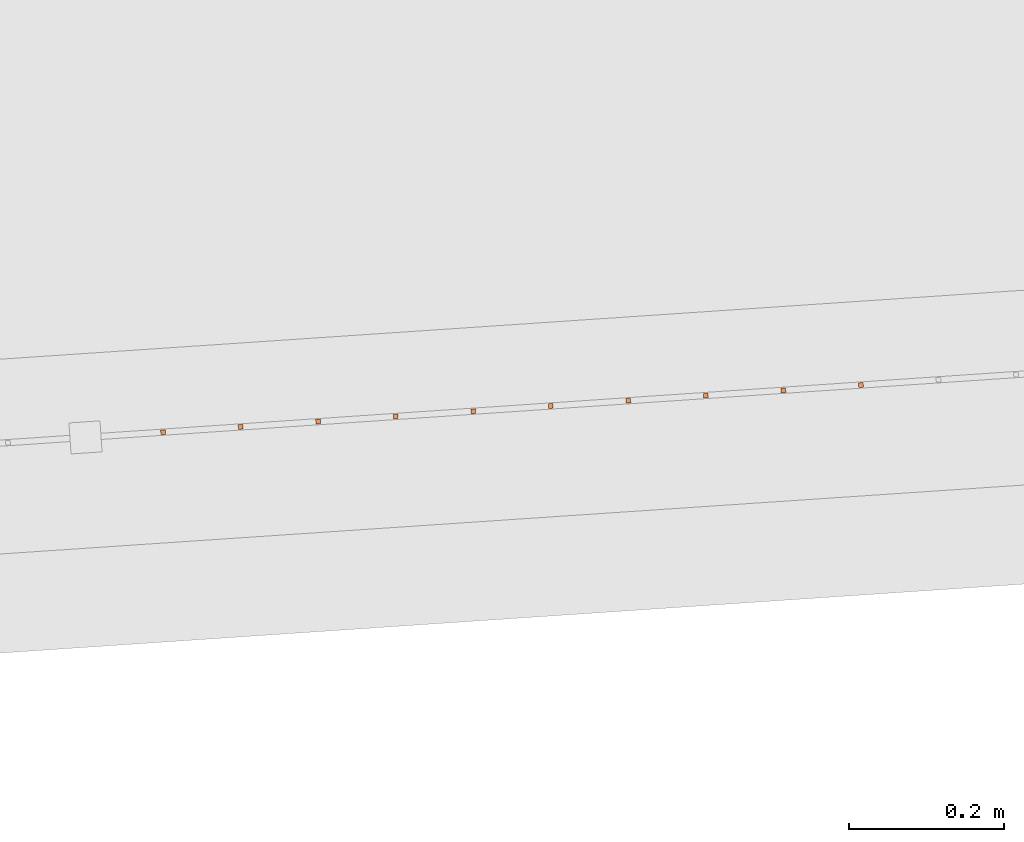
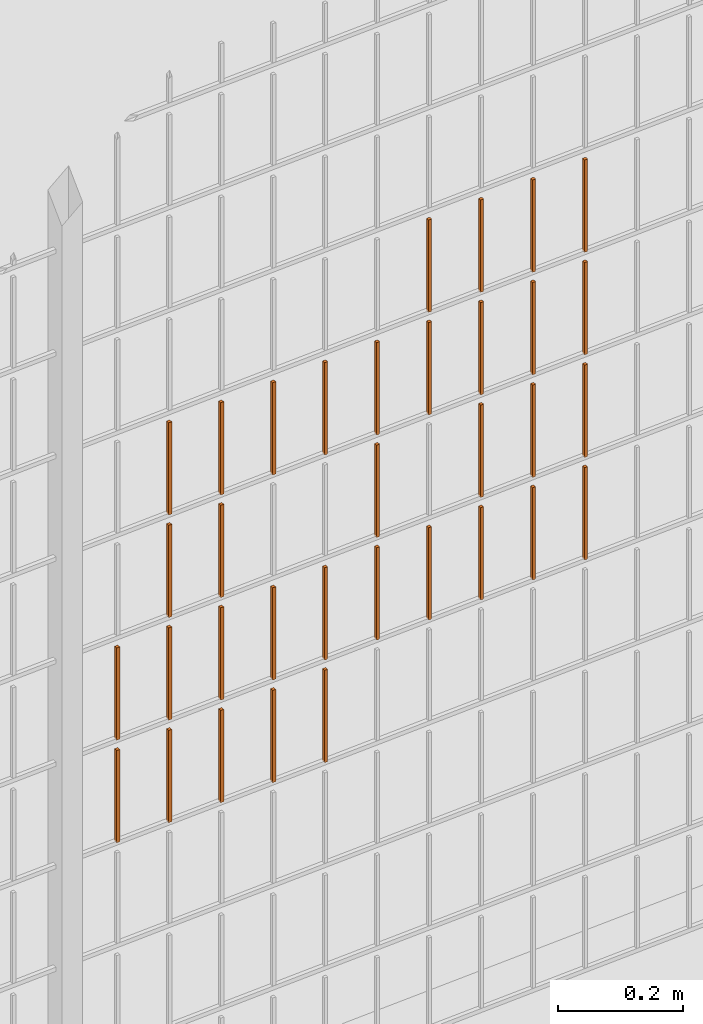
# One storey, part 293 of 1809: 34 proxies, 1 element without a shape of its own.
"""IFC2X3 building model written with IfcOpenShell, lengths in millimetres."""

from ifc_helpers import new_model, entity, si_unit, converted_unit, derived_unit, money_unit, direction, frame, origin_with_axes, place, context, subcontext, project, spatial, faceted_brep, source, transform, mapped, material, type_object, element, aggregate, save


model = new_model("IFC2X3")

# Units and contexts
model_context = context("Model", 3, precision=0.01, world=origin_with_axes(), true_north=direction((0.0, 1.0)))
body_context = subcontext(model_context, "Body", "Model", "MODEL_VIEW")
ifc_project = project(units=[si_unit("LENGTHUNIT", "METRE", prefix="MILLI"), si_unit("AREAUNIT", "SQUARE_METRE"), si_unit("VOLUMEUNIT", "CUBIC_METRE"), converted_unit("PLANEANGLEUNIT", "DEGREE", entity("IfcPlaneAngleMeasure", 0.0174532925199), si_unit("PLANEANGLEUNIT", "RADIAN"), dimensions=[0, 0, 0, 0, 0, 0, 0]), si_unit("SOLIDANGLEUNIT", "STERADIAN"), money_unit("EUR"), converted_unit("TIMEUNIT", "Year", entity("IfcTimeMeasure", 31556926.0), si_unit("TIMEUNIT", "SECOND"), dimensions=[0, 0, 1, 0, 0, 0, 0]), si_unit("MASSUNIT", "GRAM", prefix="KILO"), si_unit("THERMODYNAMICTEMPERATUREUNIT", "DEGREE_CELSIUS"), si_unit("LUMINOUSINTENSITYUNIT", "LUMEN"), si_unit("ENERGYUNIT", "JOULE", prefix="MEGA"), derived_unit("THERMALCONDUCTANCEUNIT", [(si_unit("POWERUNIT", "WATT"), 1), (si_unit("LENGTHUNIT", "METRE"), -1), (si_unit("THERMODYNAMICTEMPERATUREUNIT", "KELVIN"), -1)]), derived_unit("SPECIFICHEATCAPACITYUNIT", [(si_unit("ENERGYUNIT", "JOULE"), 1), (si_unit("MASSUNIT", "GRAM", prefix="KILO"), -1), (si_unit("THERMODYNAMICTEMPERATUREUNIT", "KELVIN"), -1)]), derived_unit("MASSDENSITYUNIT", [(si_unit("MASSUNIT", "GRAM", prefix="KILO"), 1), (si_unit("VOLUMEUNIT", "CUBIC_METRE"), -1)])], contexts=[model_context])

# Site, building, storey
site_placement = place(None, origin_with_axes())
site = spatial("IfcSite", under=ifc_project, at=site_placement, Name="Politse- ja Piirivalveameti ning Päästeameti ühishoone", CompositionType="ELEMENT")
building_placement = place(site_placement, origin_with_axes())
building = spatial("IfcBuilding", under=site, at=building_placement, Name="Politse- ja Piirivalveameti ning Päästeameti ühishoone", CompositionType="ELEMENT")
storey_placement = place(building_placement, origin_with_axes())
storey = spatial("IfcBuildingStorey", under=building, at=storey_placement, Name="Esimene korrus", CompositionType="ELEMENT", Elevation=0.0)

# Proxies
building_element_proxy_type_1 = type_object("IfcBuildingElementProxyType", Name="Railing Type", PredefinedType="NOTDEFINED")
proxy_1_placement = place(storey_placement, frame((89252.001212, -29183.4766571, 203.661247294), z_axis=(0.0, 0.0, 1.0), x_axis=(1.0, 0.0, 0.0)))
proxy_1 = element("IfcBuildingElementProxy", 1, at=proxy_1_placement, inside=storey, type_object=building_element_proxy_type_1, Name="PIIRDEAED")
ifc_material = material(Name="ET-03_Raud")
building_element_proxy_type_2 = type_object("IfcBuildingElementProxyType", Name="IfcBuildingElementProxy", PredefinedType="NOTDEFINED")
shared_shape_1 = source(origin_with_axes(), body_context, "Body", "Brep", [
    faceted_brep([(3.0, 3.0, -0.000752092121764), (-3.0, 3.0, -0.000752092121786), (-3.0, 3.0, 179.99926046), (3.0, 3.0, 179.99926046), (3.0, -3.0, 0.000752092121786), (-3.0, -3.0, 0.000752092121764), (-3.0, -3.0, 180.000764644), (3.0, -3.0, 180.000764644)], [[[0, 1, 2, 3]], [[0, 4, 5, 1]], [[1, 5, 6, 2]], [[3, 2, 6, 7]], [[4, 0, 3, 7]], [[5, 4, 7, 6]]]),
])
proxy_2_placement = place(proxy_1_placement, frame((-46420.910951, -20433.3321101, 1415.57026702), z_axis=(0.0, 0.0, 1.0), x_axis=(1.0, 0.0, 0.0)))
proxy_2 = element("IfcBuildingElementProxy", 2, at=proxy_2_placement, type_object=building_element_proxy_type_2, material=ifc_material, Name="BALUSTER - 001", context=body_context, shape_type="MappedRepresentation", body=[
    mapped(shared_shape_1, transform((0.0, 0.0, 0.0), x_axis=(-0.0673926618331, 0.997726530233, 0.0), y_axis=(-0.997726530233, -0.0673926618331, 0.0), z_axis=(0.0, 0.0, 1.0))),
])
shared_shape_2 = source(origin_with_axes(), body_context, "Body", "Brep", [
    faceted_brep([(3.0, 3.0, -0.000752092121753), (-3.0, 3.0, -0.000752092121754), (-3.0, 3.0, 179.99926046), (3.0, 3.0, 179.99926046), (3.0, -3.0, 0.000752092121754), (-3.0, -3.0, 0.000752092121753), (-3.0, -3.0, 180.000764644), (3.0, -3.0, 180.000764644)], [[[0, 1, 2, 3]], [[0, 4, 5, 1]], [[1, 5, 6, 2]], [[3, 2, 6, 7]], [[4, 0, 3, 7]], [[5, 4, 7, 6]]]),
])
proxy_3_placement = place(proxy_1_placement, frame((-46720.2289101, -20453.5499087, 615.495057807), z_axis=(0.0, 0.0, 1.0), x_axis=(1.0, 0.0, 0.0)))
proxy_3 = element("IfcBuildingElementProxy", 3, at=proxy_3_placement, type_object=building_element_proxy_type_2, material=ifc_material, Name="BALUSTER - 001", context=body_context, shape_type="MappedRepresentation", body=[
    mapped(shared_shape_2, transform((0.0, 0.0, 0.0), x_axis=(-0.0673926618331, 0.997726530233, 0.0), y_axis=(-0.997726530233, -0.0673926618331, 0.0), z_axis=(0.0, 0.0, 1.0))),
])
shared_shape_3 = source(origin_with_axes(), body_context, "Body", "Brep", [
    faceted_brep([(3.0, 3.0, -0.000752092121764), (-3.0, 3.0, -0.000752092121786), (-3.0, 3.0, 179.99926046), (3.0, 3.0, 179.99926046), (3.0, -3.0, 0.000752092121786), (-3.0, -3.0, 0.000752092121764), (-3.0, -3.0, 180.000764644), (3.0, -3.0, 180.000764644)], [[[0, 1, 2, 3]], [[0, 4, 5, 1]], [[1, 5, 6, 2]], [[3, 2, 6, 7]], [[4, 0, 3, 7]], [[5, 4, 7, 6]]]),
])
proxy_4_placement = place(proxy_1_placement, frame((-46820.0015631, -20460.2891749, 615.46998807), z_axis=(0.0, 0.0, 1.0), x_axis=(1.0, 0.0, 0.0)))
proxy_4 = element("IfcBuildingElementProxy", 4, at=proxy_4_placement, type_object=building_element_proxy_type_2, material=ifc_material, Name="BALUSTER - 001", context=body_context, shape_type="MappedRepresentation", body=[
    mapped(shared_shape_3, transform((0.0, 0.0, 0.0), x_axis=(-0.0673926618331, 0.997726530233, 0.0), y_axis=(-0.997726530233, -0.0673926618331, 0.0), z_axis=(0.0, 0.0, 1.0))),
])
proxy_5_placement = place(proxy_1_placement, frame((-46820.0015631, -20460.2891749, 815.46998807), z_axis=(0.0, 0.0, 1.0), x_axis=(1.0, 0.0, 0.0)))
proxy_5 = element("IfcBuildingElementProxy", 5, at=proxy_5_placement, type_object=building_element_proxy_type_2, material=ifc_material, Name="BALUSTER - 001", context=body_context, shape_type="MappedRepresentation", body=[
    mapped(shared_shape_3, transform((0.0, 0.0, 0.0), x_axis=(-0.0673926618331, 0.997726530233, 0.0), y_axis=(-0.997726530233, -0.0673926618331, 0.0), z_axis=(0.0, 0.0, 1.0))),
])
shared_shape_4 = source(origin_with_axes(), body_context, "Body", "Brep", [
    faceted_brep([(3.0, 3.0, -0.000752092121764), (-3.0, 3.0, -0.000752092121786), (-3.0, 3.0, 179.99926046), (3.0, 3.0, 179.99926046), (3.0, -3.0, 0.000752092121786), (-3.0, -3.0, 0.000752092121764), (-3.0, -3.0, 180.000764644), (3.0, -3.0, 180.000764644)], [[[0, 1, 2, 3]], [[0, 4, 5, 1]], [[1, 5, 6, 2]], [[3, 2, 6, 7]], [[4, 0, 3, 7]], [[5, 4, 7, 6]]]),
])
proxy_6_placement = place(proxy_1_placement, frame((-46420.910951, -20433.3321101, 815.570267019), z_axis=(0.0, 0.0, 1.0), x_axis=(1.0, 0.0, 0.0)))
proxy_6 = element("IfcBuildingElementProxy", 6, at=proxy_6_placement, type_object=building_element_proxy_type_2, material=ifc_material, Name="BALUSTER - 001", context=body_context, shape_type="MappedRepresentation", body=[
    mapped(shared_shape_4, transform((0.0, 0.0, 0.0), x_axis=(-0.0673926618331, 0.997726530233, 0.0), y_axis=(-0.997726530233, -0.0673926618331, 0.0), z_axis=(0.0, 0.0, 1.0))),
])
proxy_7_placement = place(proxy_1_placement, frame((-46520.683604, -20440.0713763, 815.545197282), z_axis=(0.0, 0.0, 1.0), x_axis=(1.0, 0.0, 0.0)))
proxy_7 = element("IfcBuildingElementProxy", 7, at=proxy_7_placement, type_object=building_element_proxy_type_2, material=ifc_material, Name="BALUSTER - 001", context=body_context, shape_type="MappedRepresentation", body=[
    mapped(shared_shape_4, transform((0.0, 0.0, 0.0), x_axis=(-0.0673926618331, 0.997726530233, 0.0), y_axis=(-0.997726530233, -0.0673926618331, 0.0), z_axis=(0.0, 0.0, 1.0))),
])
proxy_8_placement = place(proxy_1_placement, frame((-46420.910951, -20433.3321101, 1215.57026702), z_axis=(0.0, 0.0, 1.0), x_axis=(1.0, 0.0, 0.0)))
proxy_8 = element("IfcBuildingElementProxy", 8, at=proxy_8_placement, type_object=building_element_proxy_type_2, material=ifc_material, Name="BALUSTER - 001", context=body_context, shape_type="MappedRepresentation", body=[
    mapped(shared_shape_4, transform((0.0, 0.0, 0.0), x_axis=(-0.0673926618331, 0.997726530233, 0.0), y_axis=(-0.997726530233, -0.0673926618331, 0.0), z_axis=(0.0, 0.0, 1.0))),
])
shared_shape_5 = source(origin_with_axes(), body_context, "Body", "Brep", [
    faceted_brep([(3.0, 3.0, -0.000752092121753), (-3.0, 3.0, -0.000752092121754), (-3.0, 3.0, 179.99926046), (3.0, 3.0, 179.99926046), (3.0, -3.0, 0.000752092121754), (-3.0, -3.0, 0.000752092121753), (-3.0, -3.0, 180.000764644), (3.0, -3.0, 180.000764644)], [[[0, 1, 2, 3]], [[0, 4, 5, 1]], [[1, 5, 6, 2]], [[3, 2, 6, 7]], [[4, 0, 3, 7]], [[5, 4, 7, 6]]]),
])
proxy_9_placement = place(proxy_1_placement, frame((-46720.2289101, -20453.5499087, 815.495057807), z_axis=(0.0, 0.0, 1.0), x_axis=(1.0, 0.0, 0.0)))
proxy_9 = element("IfcBuildingElementProxy", 9, at=proxy_9_placement, type_object=building_element_proxy_type_2, material=ifc_material, Name="BALUSTER - 001", context=body_context, shape_type="MappedRepresentation", body=[
    mapped(shared_shape_5, transform((0.0, 0.0, 0.0), x_axis=(-0.0673926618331, 0.997726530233, 0.0), y_axis=(-0.997726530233, -0.0673926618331, 0.0), z_axis=(0.0, 0.0, 1.0))),
])
shared_shape_6 = source(origin_with_axes(), body_context, "Body", "Brep", [
    faceted_brep([(3.0, 3.0, -0.000752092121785), (-3.0, 3.0, -0.000752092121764), (-3.0, 3.0, 179.99926046), (3.0, 3.0, 179.99926046), (3.0, -3.0, 0.000752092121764), (-3.0, -3.0, 0.000752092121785), (-3.0, -3.0, 180.000764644), (3.0, -3.0, 180.000764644)], [[[0, 1, 2, 3]], [[0, 4, 5, 1]], [[1, 5, 6, 2]], [[3, 2, 6, 7]], [[4, 0, 3, 7]], [[5, 4, 7, 6]]]),
])
proxy_10_placement = place(proxy_1_placement, frame((-46820.0015631, -20460.2891749, 1215.46998807), z_axis=(0.0, 0.0, 1.0), x_axis=(1.0, 0.0, 0.0)))
proxy_10 = element("IfcBuildingElementProxy", 10, at=proxy_10_placement, type_object=building_element_proxy_type_2, material=ifc_material, Name="BALUSTER - 001", context=body_context, shape_type="MappedRepresentation", body=[
    mapped(shared_shape_6, transform((0.0, 0.0, 0.0), x_axis=(-0.0673926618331, 0.997726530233, 0.0), y_axis=(-0.997726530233, -0.0673926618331, 0.0), z_axis=(0.0, 0.0, 1.0))),
])
shared_shape_7 = source(origin_with_axes(), body_context, "Body", "Brep", [
    faceted_brep([(3.0, 3.0, -0.000752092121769), (-3.0, 3.0, -0.00075209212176), (-3.00000000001, 3.0, 179.99926046), (2.99999999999, 3.0, 179.99926046), (3.0, -3.0, 0.00075209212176), (-3.0, -3.0, 0.000752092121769), (-3.00000000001, -3.0, 180.000764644), (2.99999999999, -3.0, 180.000764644)], [[[0, 1, 2, 3]], [[0, 4, 5, 1]], [[1, 5, 6, 2]], [[3, 2, 6, 7]], [[4, 0, 3, 7]], [[5, 4, 7, 6]]]),
])
proxy_11_placement = place(proxy_1_placement, frame((-47019.5468692, -20473.7677072, 1015.41984859), z_axis=(0.0, 0.0, 1.0), x_axis=(1.0, 0.0, 0.0)))
proxy_11 = element("IfcBuildingElementProxy", 11, at=proxy_11_placement, type_object=building_element_proxy_type_2, material=ifc_material, Name="BALUSTER - 001", context=body_context, shape_type="MappedRepresentation", body=[
    mapped(shared_shape_7, transform((0.0, 0.0, 0.0), x_axis=(-0.0673926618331, 0.997726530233, 0.0), y_axis=(-0.997726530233, -0.0673926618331, 0.0), z_axis=(0.0, 0.0, 1.0))),
])
shared_shape_8 = source(origin_with_axes(), body_context, "Body", "Brep", [
    faceted_brep([(3.0, 3.0, -0.000752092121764), (-3.0, 3.0, -0.000752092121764), (-3.0, 3.0, 179.99926046), (3.0, 3.0, 179.99926046), (3.0, -3.0, 0.000752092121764), (-3.0, -3.0, 0.000752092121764), (-3.0, -3.0, 180.000764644), (3.0, -3.0, 180.000764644)], [[[0, 1, 2, 3]], [[0, 4, 5, 1]], [[1, 5, 6, 2]], [[3, 2, 6, 7]], [[4, 0, 3, 7]], [[5, 4, 7, 6]]]),
])
proxy_12_placement = place(proxy_1_placement, frame((-46221.365645, -20419.8535778, 815.620406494), z_axis=(0.0, 0.0, 1.0), x_axis=(1.0, 0.0, 0.0)))
proxy_12 = element("IfcBuildingElementProxy", 12, at=proxy_12_placement, type_object=building_element_proxy_type_2, material=ifc_material, Name="BALUSTER - 001", context=body_context, shape_type="MappedRepresentation", body=[
    mapped(shared_shape_8, transform((0.0, 0.0, 0.0), x_axis=(-0.0673926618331, 0.997726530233, 0.0), y_axis=(-0.997726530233, -0.0673926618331, 0.0), z_axis=(0.0, 0.0, 1.0))),
])
proxy_13_placement = place(proxy_1_placement, frame((-47019.5468692, -20473.7677072, 815.419848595), z_axis=(0.0, 0.0, 1.0), x_axis=(1.0, 0.0, 0.0)))
proxy_13 = element("IfcBuildingElementProxy", 13, at=proxy_13_placement, type_object=building_element_proxy_type_2, material=ifc_material, Name="BALUSTER - 001", context=body_context, shape_type="MappedRepresentation", body=[
    mapped(shared_shape_8, transform((0.0, 0.0, 0.0), x_axis=(-0.0673926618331, 0.997726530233, 0.0), y_axis=(-0.997726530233, -0.0673926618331, 0.0), z_axis=(0.0, 0.0, 1.0))),
])
proxy_14_placement = place(proxy_1_placement, frame((-46321.138298, -20426.592844, 1215.59533676), z_axis=(0.0, 0.0, 1.0), x_axis=(1.0, 0.0, 0.0)))
proxy_14 = element("IfcBuildingElementProxy", 14, at=proxy_14_placement, type_object=building_element_proxy_type_2, material=ifc_material, Name="BALUSTER - 001", context=body_context, shape_type="MappedRepresentation", body=[
    mapped(shared_shape_8, transform((0.0, 0.0, 0.0), x_axis=(-0.0673926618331, 0.997726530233, 0.0), y_axis=(-0.997726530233, -0.0673926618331, 0.0), z_axis=(0.0, 0.0, 1.0))),
])
shared_shape_9 = source(origin_with_axes(), body_context, "Body", "Brep", [
    faceted_brep([(3.0, 3.0, -0.000752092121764), (-3.0, 3.0, -0.000752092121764), (-3.0, 3.0, 179.99926046), (3.0, 3.0, 179.99926046), (3.0, -3.0, 0.000752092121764), (-3.0, -3.0, 0.000752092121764), (-3.0, -3.0, 180.000764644), (3.0, -3.0, 180.000764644)], [[[0, 1, 2, 3]], [[0, 4, 5, 1]], [[1, 5, 6, 2]], [[3, 2, 6, 7]], [[4, 0, 3, 7]], [[5, 4, 7, 6]]]),
])
proxy_15_placement = place(proxy_1_placement, frame((-46321.138298, -20426.592844, 1415.59533676), z_axis=(0.0, 0.0, 1.0), x_axis=(1.0, 0.0, 0.0)))
proxy_15 = element("IfcBuildingElementProxy", 15, at=proxy_15_placement, type_object=building_element_proxy_type_2, material=ifc_material, Name="BALUSTER - 001", context=body_context, shape_type="MappedRepresentation", body=[
    mapped(shared_shape_9, transform((0.0, 0.0, 0.0), x_axis=(-0.0673926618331, 0.997726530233, 0.0), y_axis=(-0.997726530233, -0.0673926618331, 0.0), z_axis=(0.0, 0.0, 1.0))),
])
shared_shape_10 = source(origin_with_axes(), body_context, "Body", "Brep", [
    faceted_brep([(3.0, 3.0, -0.000752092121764), (-3.0, 3.0, -0.000752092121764), (-3.0, 3.0, 179.99926046), (3.0, 3.0, 179.99926046), (3.0, -3.0, 0.000752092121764), (-3.0, -3.0, 0.000752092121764), (-3.0, -3.0, 180.000764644), (3.0, -3.0, 180.000764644)], [[[0, 1, 2, 3]], [[0, 4, 5, 1]], [[1, 5, 6, 2]], [[3, 2, 6, 7]], [[4, 0, 3, 7]], [[5, 4, 7, 6]]]),
])
proxy_16_placement = place(proxy_1_placement, frame((-46919.7742161, -20467.0284411, 815.444918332), z_axis=(0.0, 0.0, 1.0), x_axis=(1.0, 0.0, 0.0)))
proxy_16 = element("IfcBuildingElementProxy", 16, at=proxy_16_placement, type_object=building_element_proxy_type_2, material=ifc_material, Name="BALUSTER - 001", context=body_context, shape_type="MappedRepresentation", body=[
    mapped(shared_shape_10, transform((0.0, 0.0, 0.0), x_axis=(-0.0673926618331, 0.997726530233, 0.0), y_axis=(-0.997726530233, -0.0673926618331, 0.0), z_axis=(0.0, 0.0, 1.0))),
])
proxy_17_placement = place(proxy_1_placement, frame((-47019.5468692, -20473.7677072, 1215.41984859), z_axis=(0.0, 0.0, 1.0), x_axis=(1.0, 0.0, 0.0)))
proxy_17 = element("IfcBuildingElementProxy", 17, at=proxy_17_placement, type_object=building_element_proxy_type_2, material=ifc_material, Name="BALUSTER - 001", context=body_context, shape_type="MappedRepresentation", body=[
    mapped(shared_shape_10, transform((0.0, 0.0, 0.0), x_axis=(-0.0673926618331, 0.997726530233, 0.0), y_axis=(-0.997726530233, -0.0673926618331, 0.0), z_axis=(0.0, 0.0, 1.0))),
])
shared_shape_11 = source(origin_with_axes(), body_context, "Body", "Brep", [
    faceted_brep([(3.0, 3.0, -0.000752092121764), (-3.0, 3.0, -0.000752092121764), (-3.0, 3.0, 179.99926046), (3.0, 3.0, 179.99926046), (3.0, -3.0, 0.000752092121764), (-3.0, -3.0, 0.000752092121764), (-3.0, -3.0, 180.000764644), (3.0, -3.0, 180.000764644)], [[[0, 1, 2, 3]], [[0, 4, 5, 1]], [[1, 5, 6, 2]], [[3, 2, 6, 7]], [[4, 0, 3, 7]], [[5, 4, 7, 6]]]),
])
proxy_18_placement = place(proxy_1_placement, frame((-46919.7742161, -20467.0284411, 615.444918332), z_axis=(0.0, 0.0, 1.0), x_axis=(1.0, 0.0, 0.0)))
proxy_18 = element("IfcBuildingElementProxy", 18, at=proxy_18_placement, type_object=building_element_proxy_type_2, material=ifc_material, Name="BALUSTER - 001", context=body_context, shape_type="MappedRepresentation", body=[
    mapped(shared_shape_11, transform((0.0, 0.0, 0.0), x_axis=(-0.0673926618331, 0.997726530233, 0.0), y_axis=(-0.997726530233, -0.0673926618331, 0.0), z_axis=(0.0, 0.0, 1.0))),
])
shared_shape_12 = source(origin_with_axes(), body_context, "Body", "Brep", [
    faceted_brep([(3.0, 3.0, -0.000752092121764), (-3.0, 3.0, -0.000752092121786), (-3.0, 3.0, 179.99926046), (3.0, 3.0, 179.99926046), (3.0, -3.0, 0.000752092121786), (-3.0, -3.0, 0.000752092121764), (-3.0, -3.0, 180.000764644), (3.0, -3.0, 180.000764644)], [[[0, 1, 2, 3]], [[0, 4, 5, 1]], [[1, 5, 6, 2]], [[3, 2, 6, 7]], [[4, 0, 3, 7]], [[5, 4, 7, 6]]]),
])
proxy_19_placement = place(proxy_1_placement, frame((-46720.2289101, -20453.5499087, 1215.49505781), z_axis=(0.0, 0.0, 1.0), x_axis=(1.0, 0.0, 0.0)))
proxy_19 = element("IfcBuildingElementProxy", 19, at=proxy_19_placement, type_object=building_element_proxy_type_2, material=ifc_material, Name="BALUSTER - 001", context=body_context, shape_type="MappedRepresentation", body=[
    mapped(shared_shape_12, transform((0.0, 0.0, 0.0), x_axis=(-0.0673926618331, 0.997726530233, 0.0), y_axis=(-0.997726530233, -0.0673926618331, 0.0), z_axis=(0.0, 0.0, 1.0))),
])
shared_shape_13 = source(origin_with_axes(), body_context, "Body", "Brep", [
    faceted_brep([(3.0, 3.0, -0.000752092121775), (-3.0, 3.0, -0.000752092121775), (-3.0, 3.0, 179.99926046), (3.0, 3.0, 179.99926046), (3.0, -3.0, 0.000752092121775), (-3.0, -3.0, 0.000752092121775), (-3.0, -3.0, 180.000764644), (3.0, -3.0, 180.000764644)], [[[0, 1, 2, 3]], [[0, 4, 5, 1]], [[1, 5, 6, 2]], [[3, 2, 6, 7]], [[4, 0, 3, 7]], [[5, 4, 7, 6]]]),
])
proxy_20_placement = place(proxy_1_placement, frame((-47119.3195222, -20480.5069734, 615.394778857), z_axis=(0.0, 0.0, 1.0), x_axis=(1.0, 0.0, 0.0)))
proxy_20 = element("IfcBuildingElementProxy", 20, at=proxy_20_placement, type_object=building_element_proxy_type_2, material=ifc_material, Name="BALUSTER - 001", context=body_context, shape_type="MappedRepresentation", body=[
    mapped(shared_shape_13, transform((0.0, 0.0, 0.0), x_axis=(-0.0673926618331, 0.997726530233, 0.0), y_axis=(-0.997726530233, -0.0673926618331, 0.0), z_axis=(0.0, 0.0, 1.0))),
])
proxy_21_placement = place(proxy_1_placement, frame((-47119.3195222, -20480.5069734, 815.394778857), z_axis=(0.0, 0.0, 1.0), x_axis=(1.0, 0.0, 0.0)))
proxy_21 = element("IfcBuildingElementProxy", 21, at=proxy_21_placement, type_object=building_element_proxy_type_2, material=ifc_material, Name="BALUSTER - 001", context=body_context, shape_type="MappedRepresentation", body=[
    mapped(shared_shape_13, transform((0.0, 0.0, 0.0), x_axis=(-0.0673926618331, 0.997726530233, 0.0), y_axis=(-0.997726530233, -0.0673926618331, 0.0), z_axis=(0.0, 0.0, 1.0))),
])
shared_shape_14 = source(origin_with_axes(), body_context, "Body", "Brep", [
    faceted_brep([(3.0, 3.0, -0.000752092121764), (-3.0, 3.0, -0.000752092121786), (-3.0, 3.0, 179.99926046), (3.0, 3.0, 179.99926046), (3.0, -3.0, 0.000752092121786), (-3.0, -3.0, 0.000752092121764), (-3.0, -3.0, 180.000764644), (3.0, -3.0, 180.000764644)], [[[0, 1, 2, 3]], [[0, 4, 5, 1]], [[1, 5, 6, 2]], [[3, 2, 6, 7]], [[4, 0, 3, 7]], [[5, 4, 7, 6]]]),
])
proxy_22_placement = place(proxy_1_placement, frame((-46620.4562571, -20446.8106425, 815.520127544), z_axis=(0.0, 0.0, 1.0), x_axis=(1.0, 0.0, 0.0)))
proxy_22 = element("IfcBuildingElementProxy", 22, at=proxy_22_placement, type_object=building_element_proxy_type_2, material=ifc_material, Name="BALUSTER - 001", context=body_context, shape_type="MappedRepresentation", body=[
    mapped(shared_shape_14, transform((0.0, 0.0, 0.0), x_axis=(-0.0673926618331, 0.997726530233, 0.0), y_axis=(-0.997726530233, -0.0673926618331, 0.0), z_axis=(0.0, 0.0, 1.0))),
])
shared_shape_15 = source(origin_with_axes(), body_context, "Body", "Brep", [
    faceted_brep([(3.0, 3.0, -0.000752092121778), (-3.0, 3.0, -0.000752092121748), (-3.00000000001, 2.99999999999, 179.99926046), (2.99999999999, 2.99999999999, 179.99926046), (3.0, -3.0, 0.000752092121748), (-3.0, -3.0, 0.000752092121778), (-3.00000000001, -3.00000000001, 180.000764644), (2.99999999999, -3.00000000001, 180.000764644)], [[[0, 1, 2, 3]], [[0, 4, 5, 1]], [[1, 5, 6, 2]], [[3, 2, 6, 7]], [[4, 0, 3, 7]], [[5, 4, 7, 6]]]),
])
proxy_23_placement = place(proxy_1_placement, frame((-46221.365645, -20419.8535778, 1015.62040649), z_axis=(0.0, 0.0, 1.0), x_axis=(1.0, 0.0, 0.0)))
proxy_23 = element("IfcBuildingElementProxy", 23, at=proxy_23_placement, type_object=building_element_proxy_type_2, material=ifc_material, Name="BALUSTER - 001", context=body_context, shape_type="MappedRepresentation", body=[
    mapped(shared_shape_15, transform((0.0, 0.0, 0.0), x_axis=(-0.0673926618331, 0.997726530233, 0.0), y_axis=(-0.997726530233, -0.0673926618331, 0.0), z_axis=(0.0, 0.0, 1.0))),
])
shared_shape_16 = source(origin_with_axes(), body_context, "Body", "Brep", [
    faceted_brep([(3.0, 3.0, -0.000752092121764), (-3.0, 3.0, -0.000752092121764), (-3.0, 3.0, 179.99926046), (3.0, 3.0, 179.99926046), (3.0, -3.0, 0.000752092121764), (-3.0, -3.0, 0.000752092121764), (-3.0, -3.0, 180.000764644), (3.0, -3.0, 180.000764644)], [[[0, 1, 2, 3]], [[0, 4, 5, 1]], [[1, 5, 6, 2]], [[3, 2, 6, 7]], [[4, 0, 3, 7]], [[5, 4, 7, 6]]]),
])
proxy_24_placement = place(proxy_1_placement, frame((-46221.365645, -20419.8535778, 1215.62040649), z_axis=(0.0, 0.0, 1.0), x_axis=(1.0, 0.0, 0.0)))
proxy_24 = element("IfcBuildingElementProxy", 24, at=proxy_24_placement, type_object=building_element_proxy_type_2, material=ifc_material, Name="BALUSTER - 001", context=body_context, shape_type="MappedRepresentation", body=[
    mapped(shared_shape_16, transform((0.0, 0.0, 0.0), x_axis=(-0.0673926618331, 0.997726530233, 0.0), y_axis=(-0.997726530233, -0.0673926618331, 0.0), z_axis=(0.0, 0.0, 1.0))),
])
shared_shape_17 = source(origin_with_axes(), body_context, "Body", "Brep", [
    faceted_brep([(3.0, 3.0, -0.000752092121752), (-3.0, 3.0, -0.000752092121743), (-3.00000000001, 2.99999999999, 179.99926046), (2.99999999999, 2.99999999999, 179.99926046), (3.0, -3.0, 0.000752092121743), (-3.0, -3.0, 0.000752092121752), (-3.00000000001, -3.00000000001, 180.000764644), (2.99999999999, -3.00000000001, 180.000764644)], [[[0, 1, 2, 3]], [[0, 4, 5, 1]], [[1, 5, 6, 2]], [[3, 2, 6, 7]], [[4, 0, 3, 7]], [[5, 4, 7, 6]]]),
])
proxy_25_placement = place(proxy_1_placement, frame((-46919.7742161, -20467.0284411, 1015.44491833), z_axis=(0.0, 0.0, 1.0), x_axis=(1.0, 0.0, 0.0)))
proxy_25 = element("IfcBuildingElementProxy", 25, at=proxy_25_placement, type_object=building_element_proxy_type_2, material=ifc_material, Name="BALUSTER - 001", context=body_context, shape_type="MappedRepresentation", body=[
    mapped(shared_shape_17, transform((0.0, 0.0, 0.0), x_axis=(-0.0673926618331, 0.997726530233, 0.0), y_axis=(-0.997726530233, -0.0673926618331, 0.0), z_axis=(0.0, 0.0, 1.0))),
])
shared_shape_18 = source(origin_with_axes(), body_context, "Body", "Brep", [
    faceted_brep([(3.0, 3.0, -0.000752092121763), (-3.0, 3.0, -0.000752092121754), (-3.00000000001, 2.99999999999, 179.99926046), (2.99999999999, 2.99999999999, 179.99926046), (3.0, -3.0, 0.000752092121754), (-3.0, -3.0, 0.000752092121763), (-3.00000000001, -3.00000000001, 180.000764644), (2.99999999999, -3.00000000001, 180.000764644)], [[[0, 1, 2, 3]], [[0, 4, 5, 1]], [[1, 5, 6, 2]], [[3, 2, 6, 7]], [[4, 0, 3, 7]], [[5, 4, 7, 6]]]),
])
proxy_26_placement = place(proxy_1_placement, frame((-46321.138298, -20426.592844, 1015.59533676), z_axis=(0.0, 0.0, 1.0), x_axis=(1.0, 0.0, 0.0)))
proxy_26 = element("IfcBuildingElementProxy", 26, at=proxy_26_placement, type_object=building_element_proxy_type_2, material=ifc_material, Name="BALUSTER - 001", context=body_context, shape_type="MappedRepresentation", body=[
    mapped(shared_shape_18, transform((0.0, 0.0, 0.0), x_axis=(-0.0673926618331, 0.997726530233, 0.0), y_axis=(-0.997726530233, -0.0673926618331, 0.0), z_axis=(0.0, 0.0, 1.0))),
])
proxy_27_placement = place(proxy_1_placement, frame((-46620.4562571, -20446.8106425, 1015.52012754), z_axis=(0.0, 0.0, 1.0), x_axis=(1.0, 0.0, 0.0)))
proxy_27 = element("IfcBuildingElementProxy", 27, at=proxy_27_placement, type_object=building_element_proxy_type_2, material=ifc_material, Name="BALUSTER - 001", context=body_context, shape_type="MappedRepresentation", body=[
    mapped(shared_shape_18, transform((0.0, 0.0, 0.0), x_axis=(-0.0673926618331, 0.997726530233, 0.0), y_axis=(-0.997726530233, -0.0673926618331, 0.0), z_axis=(0.0, 0.0, 1.0))),
])
shared_shape_19 = source(origin_with_axes(), body_context, "Body", "Brep", [
    faceted_brep([(3.0, 3.0, -0.000752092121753), (-3.0, 3.0, -0.000752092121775), (-3.0, 3.0, 179.99926046), (3.0, 3.0, 179.99926046), (3.0, -3.0, 0.000752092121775), (-3.0, -3.0, 0.000752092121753), (-3.0, -3.0, 180.000764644), (3.0, -3.0, 180.000764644)], [[[0, 1, 2, 3]], [[0, 4, 5, 1]], [[1, 5, 6, 2]], [[3, 2, 6, 7]], [[4, 0, 3, 7]], [[5, 4, 7, 6]]]),
])
proxy_28_placement = place(proxy_1_placement, frame((-46919.7742161, -20467.0284411, 1215.44491833), z_axis=(0.0, 0.0, 1.0), x_axis=(1.0, 0.0, 0.0)))
proxy_28 = element("IfcBuildingElementProxy", 28, at=proxy_28_placement, type_object=building_element_proxy_type_2, material=ifc_material, Name="BALUSTER - 001", context=body_context, shape_type="MappedRepresentation", body=[
    mapped(shared_shape_19, transform((0.0, 0.0, 0.0), x_axis=(-0.0673926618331, 0.997726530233, 0.0), y_axis=(-0.997726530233, -0.0673926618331, 0.0), z_axis=(0.0, 0.0, 1.0))),
])
shared_shape_20 = source(origin_with_axes(), body_context, "Body", "Brep", [
    faceted_brep([(3.0, 3.0, -0.000752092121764), (-3.0, 3.0, -0.000752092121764), (-3.0, 3.0, 179.99926046), (3.0, 3.0, 179.99926046), (3.0, -3.0, 0.000752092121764), (-3.0, -3.0, 0.000752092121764), (-3.0, -3.0, 180.000764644), (3.0, -3.0, 180.000764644)], [[[0, 1, 2, 3]], [[0, 4, 5, 1]], [[1, 5, 6, 2]], [[3, 2, 6, 7]], [[4, 0, 3, 7]], [[5, 4, 7, 6]]]),
])
proxy_29_placement = place(proxy_1_placement, frame((-46221.365645, -20419.8535778, 1415.62040649), z_axis=(0.0, 0.0, 1.0), x_axis=(1.0, 0.0, 0.0)))
proxy_29 = element("IfcBuildingElementProxy", 29, at=proxy_29_placement, type_object=building_element_proxy_type_2, material=ifc_material, Name="BALUSTER - 001", context=body_context, shape_type="MappedRepresentation", body=[
    mapped(shared_shape_20, transform((0.0, 0.0, 0.0), x_axis=(-0.0673926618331, 0.997726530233, 0.0), y_axis=(-0.997726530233, -0.0673926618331, 0.0), z_axis=(0.0, 0.0, 1.0))),
])
shared_shape_21 = source(origin_with_axes(), body_context, "Body", "Brep", [
    faceted_brep([(3.0, 3.0, -0.000752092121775), (-3.0, 3.0, -0.000752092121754), (-3.0, 3.0, 179.99926046), (3.0, 3.0, 179.99926046), (3.0, -3.0, 0.000752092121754), (-3.0, -3.0, 0.000752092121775), (-3.0, -3.0, 180.000764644), (3.0, -3.0, 180.000764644)], [[[0, 1, 2, 3]], [[0, 4, 5, 1]], [[1, 5, 6, 2]], [[3, 2, 6, 7]], [[4, 0, 3, 7]], [[5, 4, 7, 6]]]),
])
proxy_30_placement = place(proxy_1_placement, frame((-46321.138298, -20426.592844, 815.595336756), z_axis=(0.0, 0.0, 1.0), x_axis=(1.0, 0.0, 0.0)))
proxy_30 = element("IfcBuildingElementProxy", 30, at=proxy_30_placement, type_object=building_element_proxy_type_2, material=ifc_material, Name="BALUSTER - 001", context=body_context, shape_type="MappedRepresentation", body=[
    mapped(shared_shape_21, transform((0.0, 0.0, 0.0), x_axis=(-0.0673926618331, 0.997726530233, 0.0), y_axis=(-0.997726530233, -0.0673926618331, 0.0), z_axis=(0.0, 0.0, 1.0))),
])
shared_shape_22 = source(origin_with_axes(), body_context, "Body", "Brep", [
    faceted_brep([(3.0, 3.0, -0.000752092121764), (-3.0, 3.0, -0.000752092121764), (-3.0, 3.0, 179.99926046), (3.0, 3.0, 179.99926046), (3.0, -3.0, 0.000752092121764), (-3.0, -3.0, 0.000752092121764), (-3.0, -3.0, 180.000764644), (3.0, -3.0, 180.000764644)], [[[0, 1, 2, 3]], [[0, 4, 5, 1]], [[1, 5, 6, 2]], [[3, 2, 6, 7]], [[4, 0, 3, 7]], [[5, 4, 7, 6]]]),
])
proxy_31_placement = place(proxy_1_placement, frame((-47019.5468692, -20473.7677072, 615.419848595), z_axis=(0.0, 0.0, 1.0), x_axis=(1.0, 0.0, 0.0)))
proxy_31 = element("IfcBuildingElementProxy", 31, at=proxy_31_placement, type_object=building_element_proxy_type_2, material=ifc_material, Name="BALUSTER - 001", context=body_context, shape_type="MappedRepresentation", body=[
    mapped(shared_shape_22, transform((0.0, 0.0, 0.0), x_axis=(-0.0673926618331, 0.997726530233, 0.0), y_axis=(-0.997726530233, -0.0673926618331, 0.0), z_axis=(0.0, 0.0, 1.0))),
])
shared_shape_23 = source(origin_with_axes(), body_context, "Body", "Brep", [
    faceted_brep([(3.0, 3.0, -0.000752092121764), (-3.0, 3.0, -0.000752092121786), (-3.0, 3.0, 179.99926046), (3.0, 3.0, 179.99926046), (3.0, -3.0, 0.000752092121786), (-3.0, -3.0, 0.000752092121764), (-3.0, -3.0, 180.000764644), (3.0, -3.0, 180.000764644)], [[[0, 1, 2, 3]], [[0, 4, 5, 1]], [[1, 5, 6, 2]], [[3, 2, 6, 7]], [[4, 0, 3, 7]], [[5, 4, 7, 6]]]),
])
proxy_32_placement = place(proxy_1_placement, frame((-46620.4562571, -20446.8106425, 1215.52012754), z_axis=(0.0, 0.0, 1.0), x_axis=(1.0, 0.0, 0.0)))
proxy_32 = element("IfcBuildingElementProxy", 32, at=proxy_32_placement, type_object=building_element_proxy_type_2, material=ifc_material, Name="BALUSTER - 001", context=body_context, shape_type="MappedRepresentation", body=[
    mapped(shared_shape_23, transform((0.0, 0.0, 0.0), x_axis=(-0.0673926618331, 0.997726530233, 0.0), y_axis=(-0.997726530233, -0.0673926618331, 0.0), z_axis=(0.0, 0.0, 1.0))),
])
shared_shape_24 = source(origin_with_axes(), body_context, "Body", "Brep", [
    faceted_brep([(3.0, 3.0, -0.000752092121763), (-3.0, 3.0, -0.000752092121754), (-3.00000000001, 2.99999999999, 179.99926046), (2.99999999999, 2.99999999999, 179.99926046), (3.0, -3.0, 0.000752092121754), (-3.0, -3.0, 0.000752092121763), (-3.00000000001, -3.00000000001, 180.000764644), (2.99999999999, -3.00000000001, 180.000764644)], [[[0, 1, 2, 3]], [[0, 4, 5, 1]], [[1, 5, 6, 2]], [[3, 2, 6, 7]], [[4, 0, 3, 7]], [[5, 4, 7, 6]]]),
])
proxy_33_placement = place(proxy_1_placement, frame((-46420.910951, -20433.3321101, 1015.57026702), z_axis=(0.0, 0.0, 1.0), x_axis=(1.0, 0.0, 0.0)))
proxy_33 = element("IfcBuildingElementProxy", 33, at=proxy_33_placement, type_object=building_element_proxy_type_2, material=ifc_material, Name="BALUSTER - 001", context=body_context, shape_type="MappedRepresentation", body=[
    mapped(shared_shape_24, transform((0.0, 0.0, 0.0), x_axis=(-0.0673926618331, 0.997726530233, 0.0), y_axis=(-0.997726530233, -0.0673926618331, 0.0), z_axis=(0.0, 0.0, 1.0))),
])
shared_shape_25 = source(origin_with_axes(), body_context, "Body", "Brep", [
    faceted_brep([(3.0, 3.0, -0.000752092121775), (-3.0, 3.0, -0.000752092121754), (-3.0, 3.0, 179.99926046), (3.0, 3.0, 179.99926046), (3.0, -3.0, 0.000752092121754), (-3.0, -3.0, 0.000752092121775), (-3.0, -3.0, 180.000764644), (3.0, -3.0, 180.000764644)], [[[0, 1, 2, 3]], [[0, 4, 5, 1]], [[1, 5, 6, 2]], [[3, 2, 6, 7]], [[4, 0, 3, 7]], [[5, 4, 7, 6]]]),
])
proxy_34_placement = place(proxy_1_placement, frame((-46520.683604, -20440.0713763, 1215.54519728), z_axis=(0.0, 0.0, 1.0), x_axis=(1.0, 0.0, 0.0)))
proxy_34 = element("IfcBuildingElementProxy", 34, at=proxy_34_placement, type_object=building_element_proxy_type_2, material=ifc_material, Name="BALUSTER - 001", context=body_context, shape_type="MappedRepresentation", body=[
    mapped(shared_shape_25, transform((0.0, 0.0, 0.0), x_axis=(-0.0673926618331, 0.997726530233, 0.0), y_axis=(-0.997726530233, -0.0673926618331, 0.0), z_axis=(0.0, 0.0, 1.0))),
])
shared_shape_26 = source(origin_with_axes(), body_context, "Body", "Brep", [
    faceted_brep([(3.0, 3.0, -0.000752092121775), (-3.0, 3.0, -0.000752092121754), (-3.0, 3.0, 179.99926046), (3.0, 3.0, 179.99926046), (3.0, -3.0, 0.000752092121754), (-3.0, -3.0, 0.000752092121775), (-3.0, -3.0, 180.000764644), (3.0, -3.0, 180.000764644)], [[[0, 1, 2, 3]], [[0, 4, 5, 1]], [[1, 5, 6, 2]], [[3, 2, 6, 7]], [[4, 0, 3, 7]], [[5, 4, 7, 6]]]),
])
proxy_35_placement = place(proxy_1_placement, frame((-46520.683604, -20440.0713763, 1415.54519728), z_axis=(0.0, 0.0, 1.0), x_axis=(1.0, 0.0, 0.0)))
proxy_35 = element("IfcBuildingElementProxy", 35, at=proxy_35_placement, type_object=building_element_proxy_type_2, material=ifc_material, Name="BALUSTER - 001", context=body_context, shape_type="MappedRepresentation", body=[
    mapped(shared_shape_26, transform((0.0, 0.0, 0.0), x_axis=(-0.0673926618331, 0.997726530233, 0.0), y_axis=(-0.997726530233, -0.0673926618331, 0.0), z_axis=(0.0, 0.0, 1.0))),
])
aggregate(proxy_1, [proxy_3, proxy_4, proxy_18, proxy_31, proxy_20, proxy_12, proxy_30, proxy_6, proxy_7, proxy_22, proxy_9, proxy_5, proxy_16, proxy_13, proxy_21, proxy_23, proxy_26, proxy_33, proxy_27, proxy_25, proxy_11, proxy_24, proxy_14, proxy_8, proxy_34, proxy_32, proxy_19, proxy_10, proxy_28, proxy_17, proxy_29, proxy_15, proxy_2, proxy_35])

save(model, "model.ifc")
